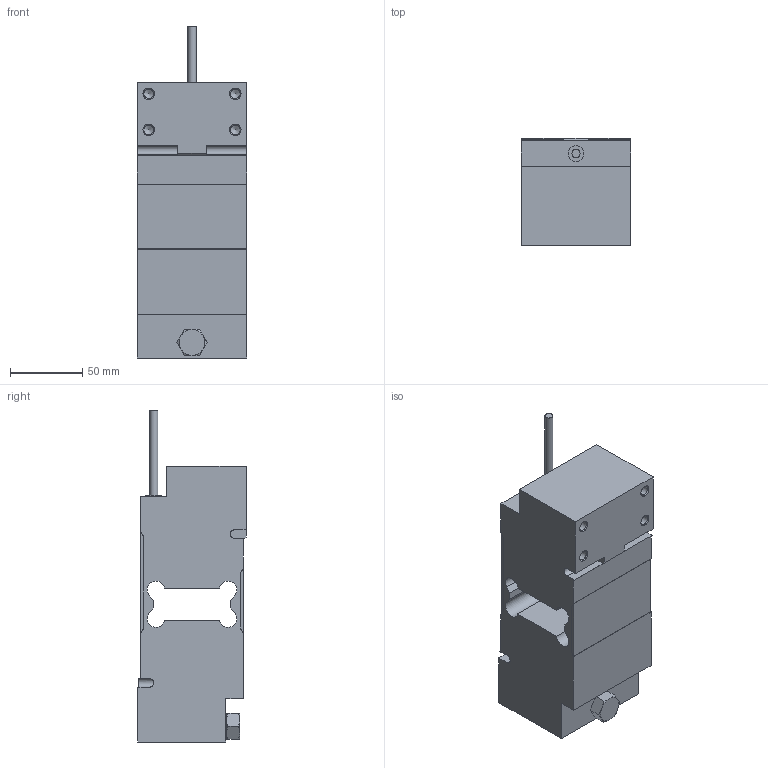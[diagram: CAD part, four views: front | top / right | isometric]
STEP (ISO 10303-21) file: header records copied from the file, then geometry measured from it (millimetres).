
FILE_DESCRIPTION( ( 'STEP AP203' ), '1' );
FILE_NAME( 'p:/temp/worker_16/temp/exporttempdir_3936_75_VGjZi/format_0/PW12CC3_200KG.stp', '2022-04-15T03:22:03', ( 'License CC BY-ND 4.0' ), ( 'CADENAS' ), ' ', 'PARTsolutions', ' ' );
FILE_SCHEMA( ( 'CONFIG_CONTROL_DESIGN' ) );
Length unit declared in the file: millimetre
Products named in the file (1): _PW12CC3_200KG
Bounding box: 76 x 75 x 230 mm (x, y, z)
Volume: 869043 mm3; surface area: 85564.2 mm2
Topology: 1 solids, 1 shells, 121 faces, 320 edges, 206 vertices
Faces by surface type: plane 71, cone 28, cylinder 22
Full cylindrical faces by diameter (mm): 4 x1, 5.6 x1, 6.647 x8, 10 x1, 11 x1
Entity records: 3606 total; most frequent: CARTESIAN_POINT 736, DIRECTION 564, ORIENTED_EDGE 556, EDGE_CURVE 278, VERTEX_POINT 200, AXIS2_PLACEMENT_3D 188, LINE 188, VECTOR 188
